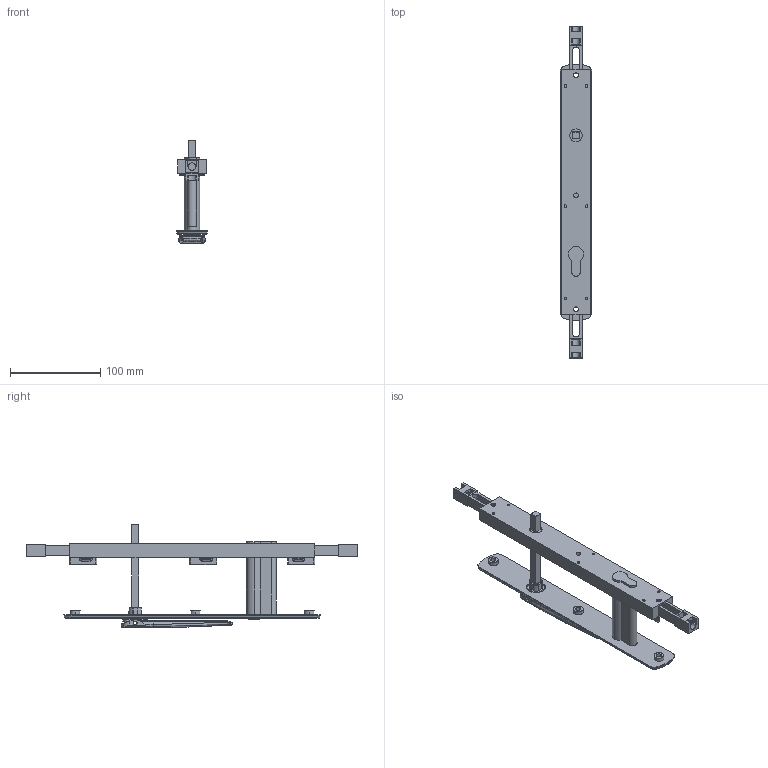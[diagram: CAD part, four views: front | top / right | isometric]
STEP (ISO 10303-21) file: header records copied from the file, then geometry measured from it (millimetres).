
FILE_DESCRIPTION (( 'STEP AP214' ), '1' );
FILE_NAME ('TPL-H-EU-603-C 30Oct2024.STEP', '2024-10-30T03:31:42', ( '' ), ( '' ), 'SwSTEP 2.0', 'SolidWorks 2023', '' );
FILE_SCHEMA (( 'AUTOMOTIVE_DESIGN' ));
Length unit declared in the file: millimetre
Products named in the file (12): Copy of TPL-H-APC-515 04Oct2024^TPL-H-EU-103 30Oct2024; Copy of LKC-584 Pivot body zinc - simplified^Copy of TPGen2 handle keyed internal zinc - simplified_TPL-H-EU-103 30Oct2024; Copy of TPLGen2 push rod - simplified^Copy of TPLGen2 lock body keyed assembly_TPL-H-EU-103 30Oct2024_Female thread M10; Copy of TPLGen2 lock body keyed^Copy of TPLGen2 lock body keyed assembly_TPL-H-EU-103 30Oct2024_Left; Copy of LKC-585 Rotator body zinc^Copy of TPGen2 handle keyed internal zinc - simplified_TPL-H-EU-103 30Oct2024; Copy of LKC-512 Escutcheon plate keyed internal 285mm long zinc - simplified^Copy of TPGen2 handle keyed internal zinc - simplified_TPL-H-EU-103 30Oct2024; TPL-H-EU-603-C 30Oct2024; Copy of LKC-505 Swing handle zinc - simplified^Copy of TPGen2 handle keyed internal zinc - simplified_TPL-H-EU-103 30Oct2024; Copy of TPGen2 handle keyed internal zinc - simplified^TPL-H-EU-103 30Oct2024_Vertical; Copy of LKC-586 Spindle square 8mm with M4 hole^Copy of TPGen2 handle keyed internal zinc - simplified_TPL-H-EU-103 30Oct2024_100mm; Copy of TPL-H-EU-005 29Oct2024^TPL-H-EU-103 30Oct2024_TPL-064-75 Left; Copy of TPLGen2 lock body keyed assembly^TPL-H-EU-103 30Oct2024_Bolts extended - left
Assembly tree (14 placements, depth 3):
  TPL-H-EU-603-C 30Oct2024
    Copy of TPLGen2 lock body keyed assembly^TPL-H-EU-103 30Oct2024_Bolts extended - left
      Copy of TPLGen2 lock body keyed^Copy of TPLGen2 lock body keyed assembly_TPL-H-EU-103 30Oct2024_Left
      Copy of TPLGen2 push rod - simplified^Copy of TPLGen2 lock body keyed assembly_TPL-H-EU-103 30Oct2024_Female thread M10  x2
    Copy of TPGen2 handle keyed internal zinc - simplified^TPL-H-EU-103 30Oct2024_Vertical
      Copy of LKC-512 Escutcheon plate keyed internal 285mm long zinc - simplified^Copy of TPGen2 handle keyed internal zinc - simplified_TPL-H-EU-103 30Oct2024
      Copy of LKC-505 Swing handle zinc - simplified^Copy of TPGen2 handle keyed internal zinc - simplified_TPL-H-EU-103 30Oct2024
      Copy of LKC-585 Rotator body zinc^Copy of TPGen2 handle keyed internal zinc - simplified_TPL-H-EU-103 30Oct2024
      Copy of LKC-586 Spindle square 8mm with M4 hole^Copy of TPGen2 handle keyed internal zinc - simplified_TPL-H-EU-103 30Oct2024_100mm
      Copy of LKC-584 Pivot body zinc - simplified^Copy of TPGen2 handle keyed internal zinc - simplified_TPL-H-EU-103 30Oct2024
    Copy of TPL-H-APC-515 04Oct2024^TPL-H-EU-103 30Oct2024  x3
    Copy of TPL-H-EU-005 29Oct2024^TPL-H-EU-103 30Oct2024_TPL-064-75 Left
Bounding box: 35 x 368.6 x 114.46 mm (x, y, z)
Volume: 236003.8 mm3; surface area: 92511.8 mm2
Topology: 12 solids, 12 shells, 1120 faces, 2724 edges, 1650 vertices
Faces by surface type: cylinder 350, plane 341, bspline 224, torus 109, cone 67, sphere 29
Entity records: 29800 total; most frequent: CARTESIAN_POINT 12435, ORIENTED_EDGE 3740, DIRECTION 3349, EDGE_CURVE 1870, AXIS2_PLACEMENT_3D 1322, VERTEX_POINT 1134, EDGE_LOOP 868, ADVANCED_FACE 783
